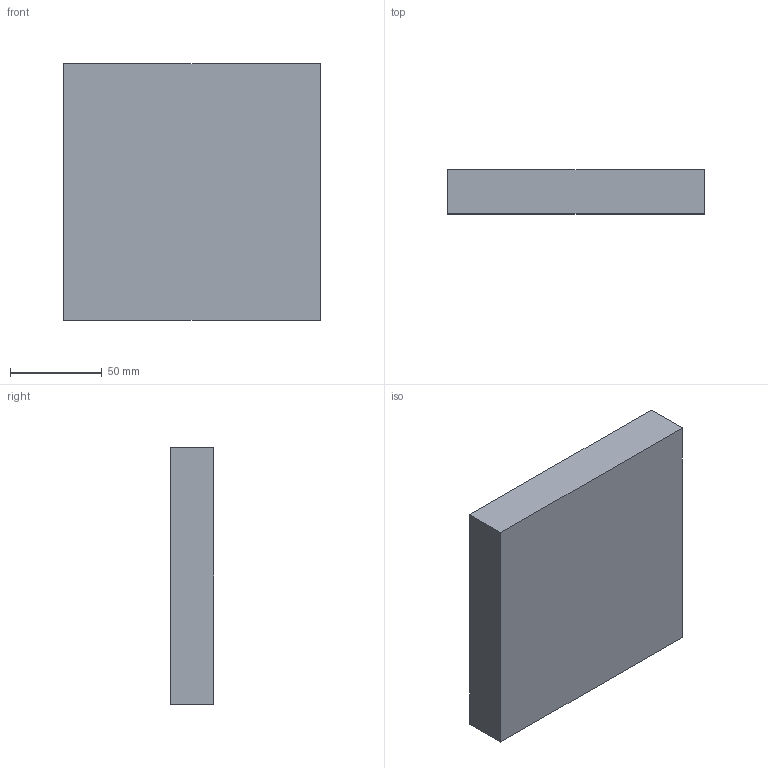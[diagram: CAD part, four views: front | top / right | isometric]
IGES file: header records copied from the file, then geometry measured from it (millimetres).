
Start section: SolidWorks IGES file using analytic representation for surfaces
Global section: file name: D:\3DS EMPRESA\ROKU-P34362-3D\ROKU-P34362-3D.IGS; native system: SolidWorks 2019; preprocessor: SolidWorks 2019; author: Carlos Corella; date: 210721.104935; units: millimetre
Bounding box: 140 x 24 x 140 mm (x, y, z)
Surface area: 53104 mm2 (no closed solid volume)
Topology: 0 solids, 0 shells, 11 faces, 48 edges, 48 vertices
Faces by surface type: bspline 11
